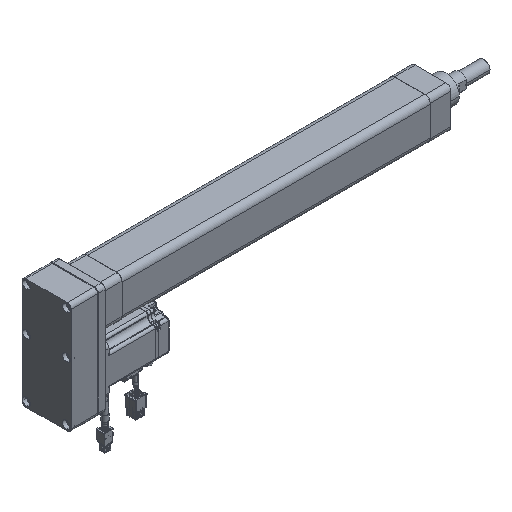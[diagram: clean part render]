
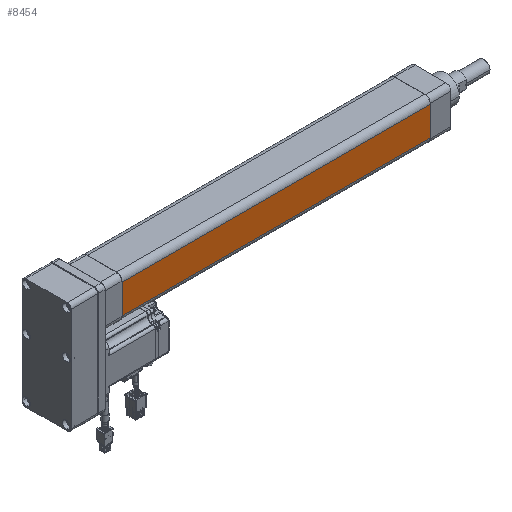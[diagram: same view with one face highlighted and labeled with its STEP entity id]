
A CAD part, isometric view. The second image highlights one B-rep face of the part: STEP entity #8454.
In plain terms, the highlighted planar face has unit normal (0, -1, 0) as drawn and (1, 0, 0) by its records, which use the part's own axes.
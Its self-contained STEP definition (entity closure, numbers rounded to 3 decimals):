
#1079 = AXIS2_PLACEMENT_3D ( 'NONE', #34197, #38370, #42082 ) ;
#1504 = CARTESIAN_POINT ( 'NONE',  ( 26.5, 0., -29.15 ) ) ;
#3030 = ORIENTED_EDGE ( 'NONE', *, *, #8600, .F. ) ;
#3710 = DIRECTION ( 'NONE',  ( 0., 1., 0. ) ) ;
#4315 = DIRECTION ( 'NONE',  ( 0., 1., 0. ) ) ;
#4396 = VERTEX_POINT ( 'NONE', #11947 ) ;
#5824 = ORIENTED_EDGE ( 'NONE', *, *, #31955, .F. ) ;
#7027 = CARTESIAN_POINT ( 'NONE',  ( 26.5, 402., 19. ) ) ;
#7149 = EDGE_CURVE ( 'NONE', #44439, #27067, #18486, .T. ) ;
#8177 = LINE ( 'NONE', #22792, #35724 ) ;
#8454 = ADVANCED_FACE ( 'NONE', ( #34875 ), #37926, .F. ) ;
#8600 = EDGE_CURVE ( 'NONE', #4396, #30341, #29048, .T. ) ;
#9115 = DIRECTION ( 'NONE',  ( 0., 0., -1. ) ) ;
#11750 = CARTESIAN_POINT ( 'NONE',  ( 26.5, -74.953, -19. ) ) ;
#11947 = CARTESIAN_POINT ( 'NONE',  ( 26.5, 0., 19. ) ) ;
#14322 = VECTOR ( 'NONE', #4315, 1000. ) ;
#18486 = LINE ( 'NONE', #11750, #14322 ) ;
#19621 = DIRECTION ( 'NONE',  ( 0., 0., 1. ) ) ;
#20337 = ORIENTED_EDGE ( 'NONE', *, *, #7149, .T. ) ;
#22792 = CARTESIAN_POINT ( 'NONE',  ( 26.5, 402., 14.834 ) ) ;
#25567 = VECTOR ( 'NONE', #19621, 1000. ) ;
#27067 = VERTEX_POINT ( 'NONE', #30191 ) ;
#27218 = CARTESIAN_POINT ( 'NONE',  ( 26.5, 0., -19. ) ) ;
#29048 = LINE ( 'NONE', #35565, #35973 ) ;
#30191 = CARTESIAN_POINT ( 'NONE',  ( 26.5, 402., -19. ) ) ;
#30341 = VERTEX_POINT ( 'NONE', #7027 ) ;
#30683 = ORIENTED_EDGE ( 'NONE', *, *, #37686, .F. ) ;
#31955 = EDGE_CURVE ( 'NONE', #30341, #27067, #8177, .T. ) ;
#34197 = CARTESIAN_POINT ( 'NONE',  ( 26.5, 0., 11.5 ) ) ;
#34875 = FACE_OUTER_BOUND ( 'NONE', #40150, .T. ) ;
#35565 = CARTESIAN_POINT ( 'NONE',  ( 26.5, -74.953, 19. ) ) ;
#35724 = VECTOR ( 'NONE', #9115, 1000. ) ;
#35973 = VECTOR ( 'NONE', #3710, 1000. ) ;
#37686 = EDGE_CURVE ( 'NONE', #44439, #4396, #44055, .T. ) ;
#37926 = PLANE ( 'NONE',  #1079 ) ;
#38370 = DIRECTION ( 'NONE',  ( -1., 0., 0. ) ) ;
#40150 = EDGE_LOOP ( 'NONE', ( #30683, #20337, #5824, #3030 ) ) ;
#42082 = DIRECTION ( 'NONE',  ( 0., 0., 1. ) ) ;
#44055 = LINE ( 'NONE', #1504, #25567 ) ;
#44439 = VERTEX_POINT ( 'NONE', #27218 ) ;
